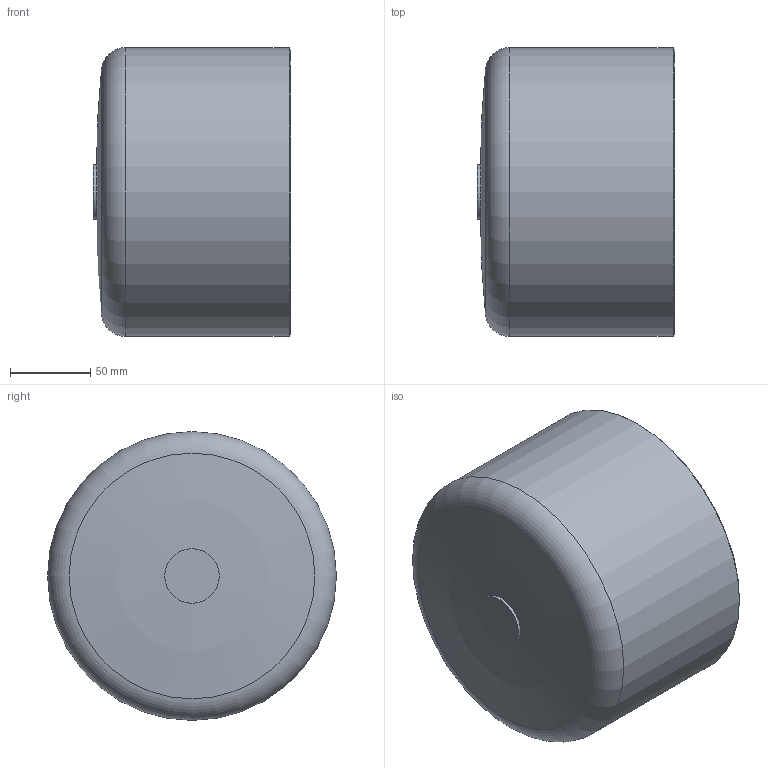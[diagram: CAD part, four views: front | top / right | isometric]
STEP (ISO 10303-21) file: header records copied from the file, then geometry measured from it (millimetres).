
FILE_DESCRIPTION(/* description */ ('Unknown'),/* implementation_level */ '2;1');
FILE_NAME(/* name */ 'CAP180B',/* time_stamp */ '2022-04-02T09:27:32+02:00',/* author */ ('Unknown'),/* organization */ ('Unknown'),/* preprocessor_version */ 'ST-DEVELOPER v18.1',/* originating_system */ 'Solid Edge',/* authorisation */ 'Unknown');
FILE_SCHEMA (('AUTOMOTIVE_DESIGN {1 0 10303 214 3 1 1}'));
Length unit declared in the file: millimetre
Products named in the file (1): CAP180B
Bounding box: 123 x 180 x 180 mm (x, y, z)
Volume: 868845 mm3; surface area: 165210.8 mm2
Topology: 1 solids, 1 shells, 11 faces, 19 edges, 11 vertices
Faces by surface type: torus 4, plane 3, cylinder 3, cone 1
Full cylindrical faces by diameter (mm): 34 x1, 158.6 x1, 180 x1
Entity records: 244 total; most frequent: DIRECTION 44, CARTESIAN_POINT 32, AXIS2_PLACEMENT_3D 22, ORIENTED_EDGE 20, EDGE_LOOP 20, FACE_BOUND 20, ADVANCED_FACE 11, EDGE_CURVE 10
